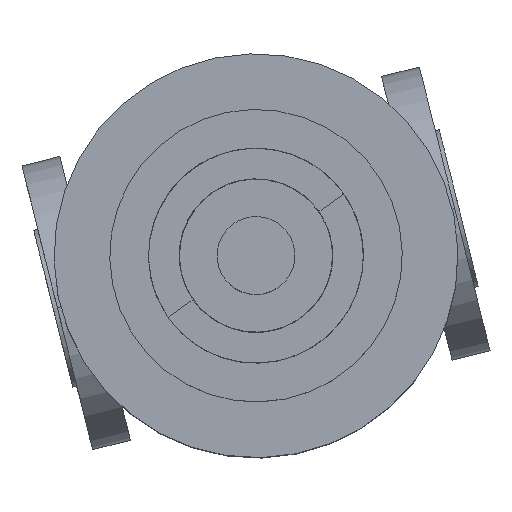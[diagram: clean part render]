
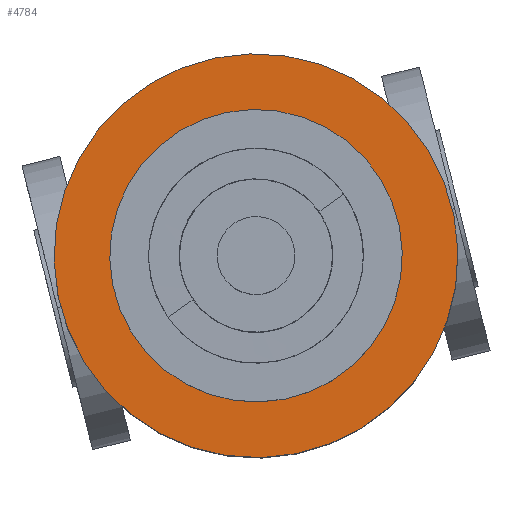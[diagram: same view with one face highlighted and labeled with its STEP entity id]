
A CAD part, top view. The second image highlights one B-rep face of the part: STEP entity #4784.
In plain terms, the highlighted planar face has unit normal (0, 0, 1).
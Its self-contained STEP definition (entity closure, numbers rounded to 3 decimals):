
#391 = EDGE_LOOP ( 'NONE', ( #6392, #3791 ) ) ;
#409 = EDGE_CURVE ( 'NONE', #2024, #2831, #2270, .T. ) ;
#1062 = VERTEX_POINT ( 'NONE', #1984 ) ;
#1358 = DIRECTION ( 'NONE',  ( 0., 0., -1. ) ) ;
#1370 = EDGE_CURVE ( 'NONE', #1062, #8942, #4757, .T. ) ;
#1491 = DIRECTION ( 'NONE',  ( 0., 0., -1. ) ) ;
#1511 = CIRCLE ( 'NONE', #5793, 52.5 ) ;
#1585 = DIRECTION ( 'NONE',  ( -1., 0., 0. ) ) ;
#1984 = CARTESIAN_POINT ( 'NONE',  ( 9.286, 56.736, 84.099 ) ) ;
#2024 = VERTEX_POINT ( 'NONE', #3842 ) ;
#2120 = DIRECTION ( 'NONE',  ( 0., -1., 0. ) ) ;
#2270 = CIRCLE ( 'NONE', #8411, 72.5 ) ;
#2564 = ORIENTED_EDGE ( 'NONE', *, *, #409, .F. ) ;
#2831 = VERTEX_POINT ( 'NONE', #6490 ) ;
#3010 = CIRCLE ( 'NONE', #8402, 72.5 ) ;
#3521 = DIRECTION ( 'NONE',  ( 0., 0., -1. ) ) ;
#3725 = DIRECTION ( 'NONE',  ( 0., 0., -1. ) ) ;
#3791 = ORIENTED_EDGE ( 'NONE', *, *, #5868, .T. ) ;
#3842 = CARTESIAN_POINT ( 'NONE',  ( 73.201, -5.933, 84.099 ) ) ;
#4191 = PLANE ( 'NONE',  #5023 ) ;
#4609 = DIRECTION ( 'NONE',  ( 0., 0., -1. ) ) ;
#4757 = CIRCLE ( 'NONE', #5517, 52.5 ) ;
#4784 = ADVANCED_FACE ( 'NONE', ( #8612, #7837 ), #4191, .F. ) ;
#4981 = EDGE_CURVE ( 'NONE', #2831, #2024, #3010, .T. ) ;
#5023 = AXIS2_PLACEMENT_3D ( 'NONE', #5631, #1358, #2120 ) ;
#5517 = AXIS2_PLACEMENT_3D ( 'NONE', #7425, #4609, #1585 ) ;
#5631 = CARTESIAN_POINT ( 'NONE',  ( 28.106, -40.14, 84.099 ) ) ;
#5793 = AXIS2_PLACEMENT_3D ( 'NONE', #8723, #3521, #7258 ) ;
#5868 = EDGE_CURVE ( 'NONE', #8942, #1062, #1511, .T. ) ;
#5943 = CARTESIAN_POINT ( 'NONE',  ( 1.502, 4.816, 84.099 ) ) ;
#5987 = DIRECTION ( 'NONE',  ( -1., 0., 0. ) ) ;
#6392 = ORIENTED_EDGE ( 'NONE', *, *, #1370, .T. ) ;
#6490 = CARTESIAN_POINT ( 'NONE',  ( -70.196, 15.566, 84.099 ) ) ;
#6723 = CARTESIAN_POINT ( 'NONE',  ( -6.282, -47.103, 84.099 ) ) ;
#7258 = DIRECTION ( 'NONE',  ( -1., 0., 0. ) ) ;
#7281 = CARTESIAN_POINT ( 'NONE',  ( 1.502, 4.816, 84.099 ) ) ;
#7425 = CARTESIAN_POINT ( 'NONE',  ( 1.502, 4.816, 84.099 ) ) ;
#7504 = ORIENTED_EDGE ( 'NONE', *, *, #4981, .F. ) ;
#7837 = FACE_OUTER_BOUND ( 'NONE', #8581, .T. ) ;
#8016 = DIRECTION ( 'NONE',  ( -1., 0., 0. ) ) ;
#8402 = AXIS2_PLACEMENT_3D ( 'NONE', #5943, #3725, #8016 ) ;
#8411 = AXIS2_PLACEMENT_3D ( 'NONE', #7281, #1491, #5987 ) ;
#8581 = EDGE_LOOP ( 'NONE', ( #7504, #2564 ) ) ;
#8612 = FACE_BOUND ( 'NONE', #391, .T. ) ;
#8723 = CARTESIAN_POINT ( 'NONE',  ( 1.502, 4.816, 84.099 ) ) ;
#8942 = VERTEX_POINT ( 'NONE', #6723 ) ;
